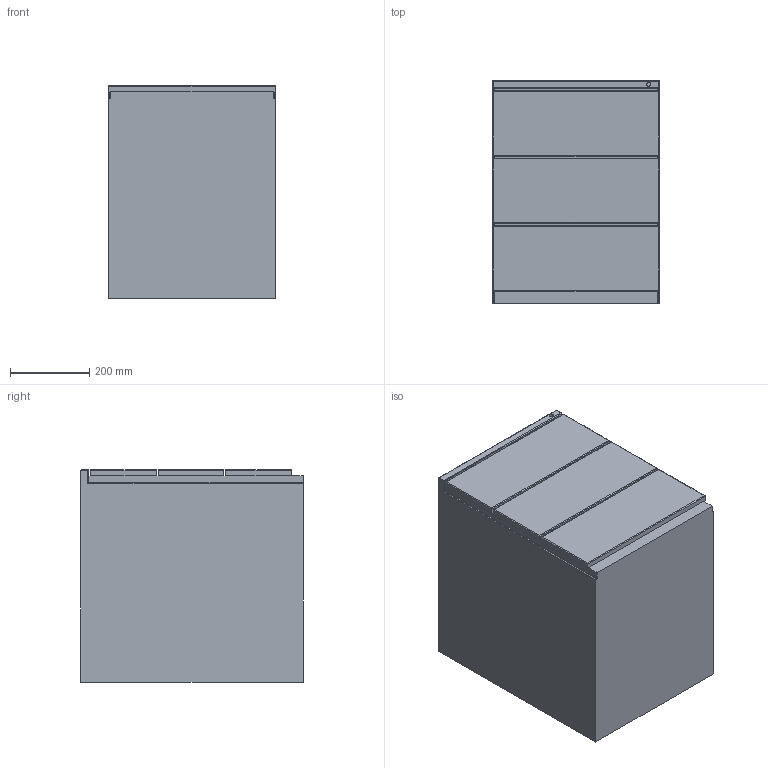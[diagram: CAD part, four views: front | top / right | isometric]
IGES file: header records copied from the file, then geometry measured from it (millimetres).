
Start section: SolidWorks IGES file using NURBS representation for surfaces
Global section: file name: G:\VICCARBE\PRODUCTOS\12-LEG-IN\04-MODELADOS (PLANOS)\SOLIDWORKS\LEG_IN 2011\ENSAMBLAJES\Mesas 3D\IGES\BUCS\VICCARBE_CAJ.IGS; native system: SolidWorks 2009; preprocessor: SolidWorks 2009; author: RUBEN; date: 111024.104139; units: millimetre
Bounding box: 420 x 560 x 535 mm (x, y, z)
Surface area: 1561373.6 mm2 (no closed solid volume)
Topology: 0 solids, 0 shells, 61 faces, 604 edges, 602 vertices
Faces by surface type: bspline 61
